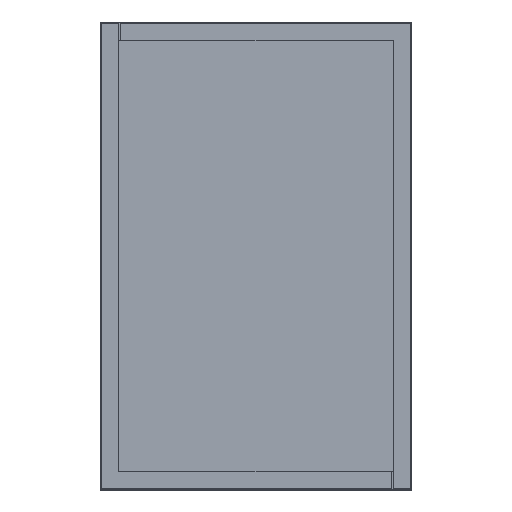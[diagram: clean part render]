
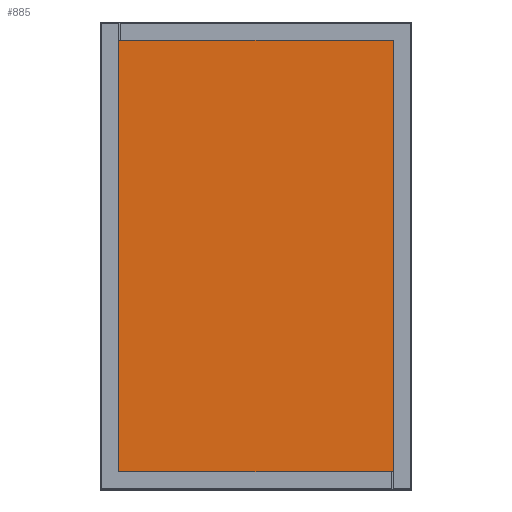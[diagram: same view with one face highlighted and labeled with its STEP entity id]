
A CAD part, top view. The second image highlights one B-rep face of the part: STEP entity #885.
In plain terms, the highlighted planar face has unit normal (0, 0, 1).
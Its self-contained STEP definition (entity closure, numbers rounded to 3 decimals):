
#206=DIRECTION('',(1.,0.,0.));
#207=VECTOR('',#206,67.07);
#208=CARTESIAN_POINT('',(-35.912,-52.713,3.));
#209=LINE('',#208,#207);
#214=DIRECTION('',(0.,-1.,0.));
#215=VECTOR('',#214,105.42);
#216=CARTESIAN_POINT('',(-35.912,52.707,3.));
#217=LINE('',#216,#215);
#222=DIRECTION('',(-1.,0.,0.));
#223=VECTOR('',#222,67.07);
#224=CARTESIAN_POINT('',(31.158,52.707,3.));
#225=LINE('',#224,#223);
#230=DIRECTION('',(0.,1.,0.));
#231=VECTOR('',#230,105.42);
#232=CARTESIAN_POINT('',(31.158,-52.713,3.));
#233=LINE('',#232,#231);
#758=CARTESIAN_POINT('',(-35.912,-52.713,3.));
#759=VERTEX_POINT('',#758);
#760=CARTESIAN_POINT('',(31.158,-52.713,3.));
#761=VERTEX_POINT('',#760);
#762=CARTESIAN_POINT('',(-35.912,52.707,3.));
#763=VERTEX_POINT('',#762);
#764=CARTESIAN_POINT('',(31.158,52.707,3.));
#765=VERTEX_POINT('',#764);
#874=CARTESIAN_POINT('',(-765.323,-1213.136,3.));
#875=DIRECTION('',(0.,0.,-1.));
#876=DIRECTION('',(0.,1.,0.));
#877=AXIS2_PLACEMENT_3D('',#874,#875,#876);
#878=PLANE('',#877);
#879=ORIENTED_EDGE('',*,*,#826,.F.);
#880=ORIENTED_EDGE('',*,*,#841,.F.);
#881=ORIENTED_EDGE('',*,*,#855,.F.);
#882=ORIENTED_EDGE('',*,*,#868,.F.);
#883=EDGE_LOOP('',(#879,#880,#881,#882));
#884=FACE_OUTER_BOUND('',#883,.F.);
#826=EDGE_CURVE('',#759,#761,#209,.T.);
#841=EDGE_CURVE('',#763,#759,#217,.T.);
#855=EDGE_CURVE('',#765,#763,#225,.T.);
#868=EDGE_CURVE('',#761,#765,#233,.T.);
#885=ADVANCED_FACE('',(#884),#878,.F.);
